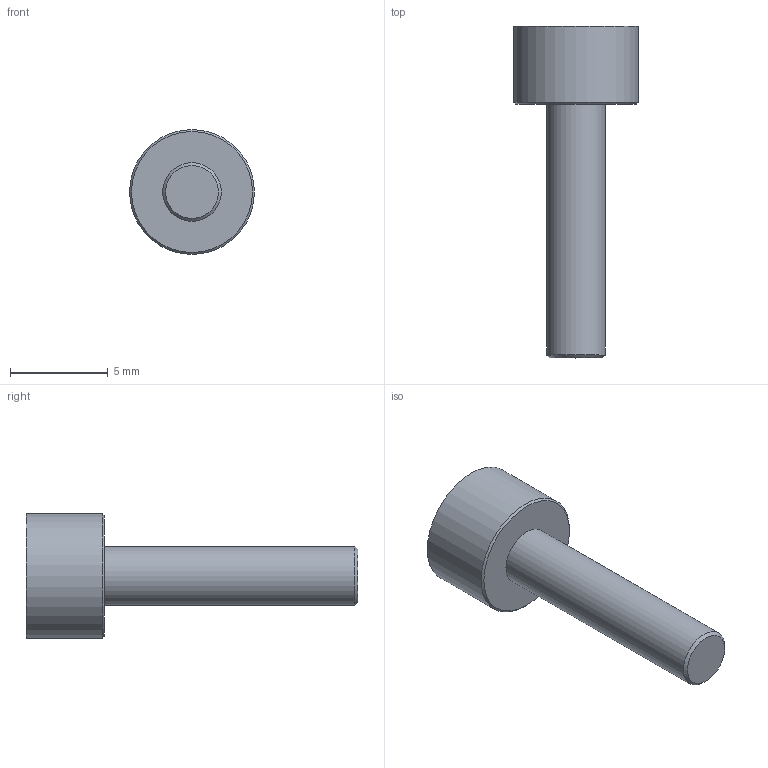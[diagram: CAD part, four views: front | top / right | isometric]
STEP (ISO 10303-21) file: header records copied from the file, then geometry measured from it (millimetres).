
FILE_DESCRIPTION (( 'STEP AP214' ), '1' );
FILE_NAME ('SE-12.STEP', '2018-10-09T18:06:17', ( '' ), ( '' ), 'SwSTEP 2.0', 'SolidWorks 2017', '' );
FILE_SCHEMA (( 'AUTOMOTIVE_DESIGN' ));
Length unit declared in the file: millimetre
Products named in the file (1): SE-12
Bounding box: 6.4 x 17 x 6.4 mm (x, y, z)
Volume: 218.2 mm3; surface area: 271.8 mm2
Topology: 1 solids, 1 shells, 20 faces, 48 edges, 32 vertices
Faces by surface type: plane 11, cylinder 7, cone 2
Full cylindrical faces by diameter (mm): 3 x1, 6.4 x1
Entity records: 574 total; most frequent: CARTESIAN_POINT 123, ORIENTED_EDGE 84, DIRECTION 80, EDGE_CURVE 42, VERTEX_POINT 30, AXIS2_PLACEMENT_3D 27, VECTOR 26, LINE 26
